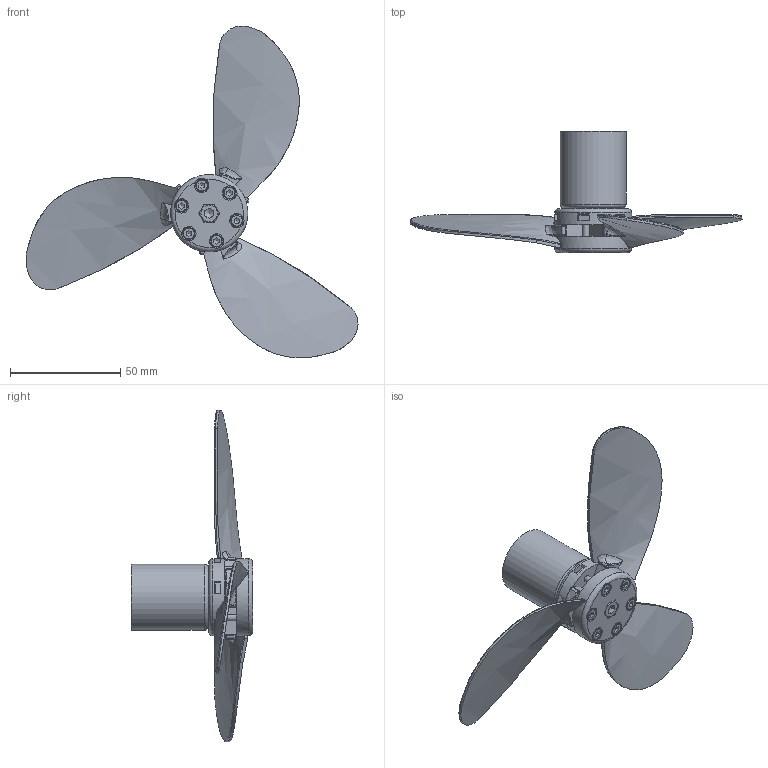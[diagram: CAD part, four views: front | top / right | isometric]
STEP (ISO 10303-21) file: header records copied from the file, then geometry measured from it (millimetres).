
FILE_DESCRIPTION(/* description */ (''),/* implementation_level */ '2;1');
FILE_NAME(/* name */ 'Assieme_componibile_3p_v2.stp',/* time_stamp */ '2025-02-02T17:06:26+01:00',/* author */ ('R5800u'),/* organization */ (''),/* preprocessor_version */ 'ST-DEVELOPER v20',/* originating_system */ 'Autodesk Inventor 2025',/* authorisation */ '');
FILE_SCHEMA (('AUTOMOTIVE_DESIGN { 1 0 10303 214 3 1 1 }'));
Length unit declared in the file: millimetre
Products named in the file (8): Assieme_componibile_3p; blocco_centrale; fan_assembla; AS 1420 - 1973 - M3 x 16; dado_quadrato_m3; blocco_motore_220; AS 1112 - M5  Tipo 5; AS 1420 - 1973 - M5 x 25
Assembly tree (19 placements, depth 2):
  Assieme_componibile_3p
    blocco_centrale
    fan_assembla  x3
    AS 1420 - 1973 - M3 x 16  x6
    dado_quadrato_m3  x6
    blocco_motore_220
    AS 1112 - M5  Tipo 5
    AS 1420 - 1973 - M5 x 25
Bounding box: 150.53 x 55 x 150.41 mm (x, y, z)
Volume: 48832.1 mm3; surface area: 32795.4 mm2
Topology: 19 solids, 19 shells, 489 faces, 1345 edges, 910 vertices
Faces by surface type: plane 244, cylinder 107, bspline 84, cone 28, torus 26
Full cylindrical faces by diameter (mm): 2.459 x6, 3 x21, 3.2 x6, 4.134 x1, 5 x1, 5.3 x2, 5.5 x6, 6.5 x6, 8.5 x1, 14 x1, 30 x1, 35 x1
Entity records: 11176 total; most frequent: CARTESIAN_POINT 4738, ORIENTED_EDGE 1320, DIRECTION 1180, EDGE_CURVE 660, VERTEX_POINT 444, AXIS2_PLACEMENT_3D 435, EDGE_LOOP 314, LINE 310
